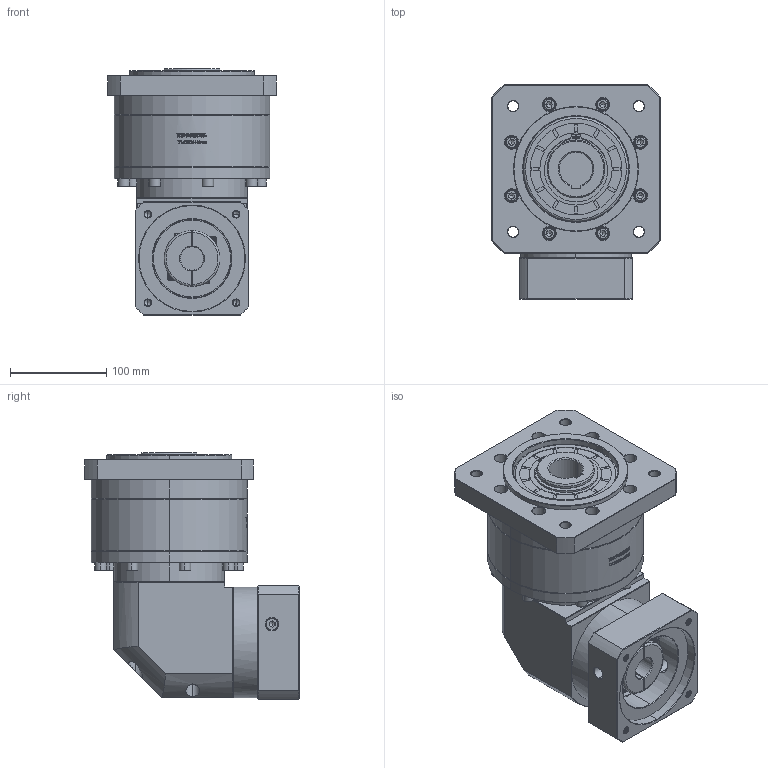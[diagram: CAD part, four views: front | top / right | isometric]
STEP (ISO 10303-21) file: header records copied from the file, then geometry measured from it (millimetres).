
FILE_DESCRIPTION (( 'STEP AP214' ), '1' );
FILE_NAME ('ZFR160A-K35-L2-24-110-130-M8.step', '2023-03-25T01:59:02', ( '' ), ( '' ), 'SwSTEP 2.0', 'SolidWorks 2016', '' );
FILE_SCHEMA (( 'AUTOMOTIVE_DESIGN' ));
Length unit declared in the file: millimetre
Products named in the file (1): ZFR160A-K35-L2-24-110-130-M8
Bounding box: 175 x 222.4 x 256.2 mm (x, y, z)
Volume: 4635809.2 mm3; surface area: 333741.4 mm2
Topology: 6 solids, 6 shells, 2724 faces, 7130 edges, 4578 vertices
Faces by surface type: plane 1366, bspline 490, cylinder 459, cone 365, torus 44
Entity records: 143734 total; most frequent: CARTESIAN_POINT 50845, ORIENTED_EDGE 14156, DIRECTION 11224, EDGE_CURVE 7078, VERTEX_POINT 4578, LINE 4444, VECTOR 4444, AXIS2_PLACEMENT_3D 3390
